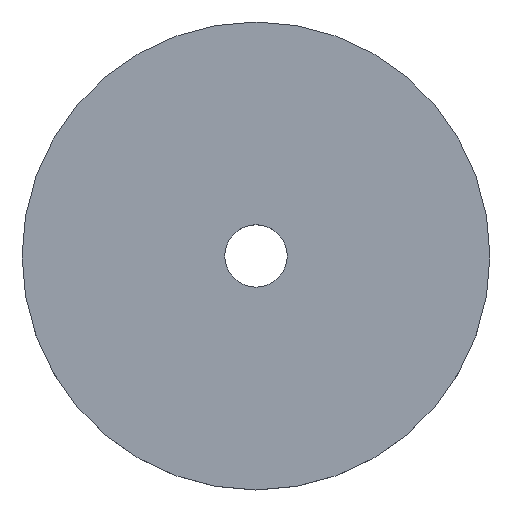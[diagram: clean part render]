
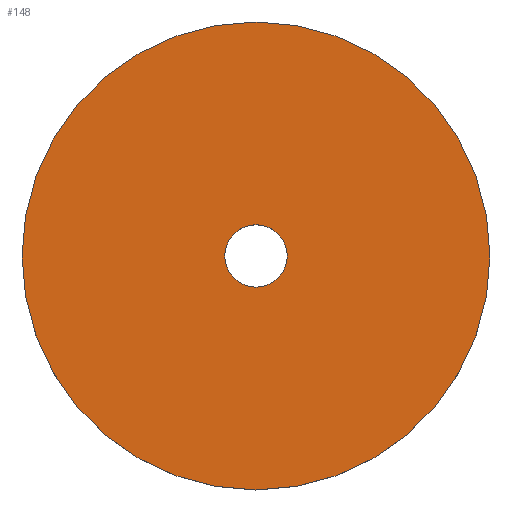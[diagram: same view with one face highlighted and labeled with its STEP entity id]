
A CAD part, top view. The second image highlights one B-rep face of the part: STEP entity #148.
In plain terms, the highlighted planar face has unit normal (0, 0, 1).
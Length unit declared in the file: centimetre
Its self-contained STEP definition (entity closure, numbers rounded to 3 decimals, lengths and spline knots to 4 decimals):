
#114=VERTEX_POINT('',#354);
#116=VERTEX_POINT('',#359);
#118=EDGE_CURVE('',#114,#114,#174,.T.);
#120=EDGE_CURVE('',#116,#116,#176,.T.);
#126=ORIENTED_EDGE('',*,*,#120,.F.);
#127=ORIENTED_EDGE('',*,*,#118,.F.);
#134=EDGE_LOOP('',(#126));
#135=EDGE_LOOP('',(#127));
#142=FACE_BOUND('',#134,.T.);
#143=FACE_BOUND('',#135,.T.);
#148=ADVANCED_FACE('',(#142,#143),#255,.T.);
#174=CIRCLE('',#238,1.5);
#176=CIRCLE('',#241,0.2);
#238=AXIS2_PLACEMENT_3D('',#353,#317,#318);
#241=AXIS2_PLACEMENT_3D('',#358,#323,#324);
#243=AXIS2_PLACEMENT_3D('',#362,#327,$);
#255=PLANE('',#243);
#317=DIRECTION('',(0.,0.,-1.));
#318=DIRECTION('',(1.5,0.,0.));
#323=DIRECTION('',(0.,0.,1.));
#324=DIRECTION('',(0.2,0.,0.));
#327=DIRECTION('',(0.,0.,1.));
#353=CARTESIAN_POINT('',(0.,0.,0.3));
#354=CARTESIAN_POINT('',(1.5,0.,0.3));
#358=CARTESIAN_POINT('',(0.,0.,0.3));
#359=CARTESIAN_POINT('',(0.2,0.,0.3));
#362=CARTESIAN_POINT('',(0.,0.,0.3));
